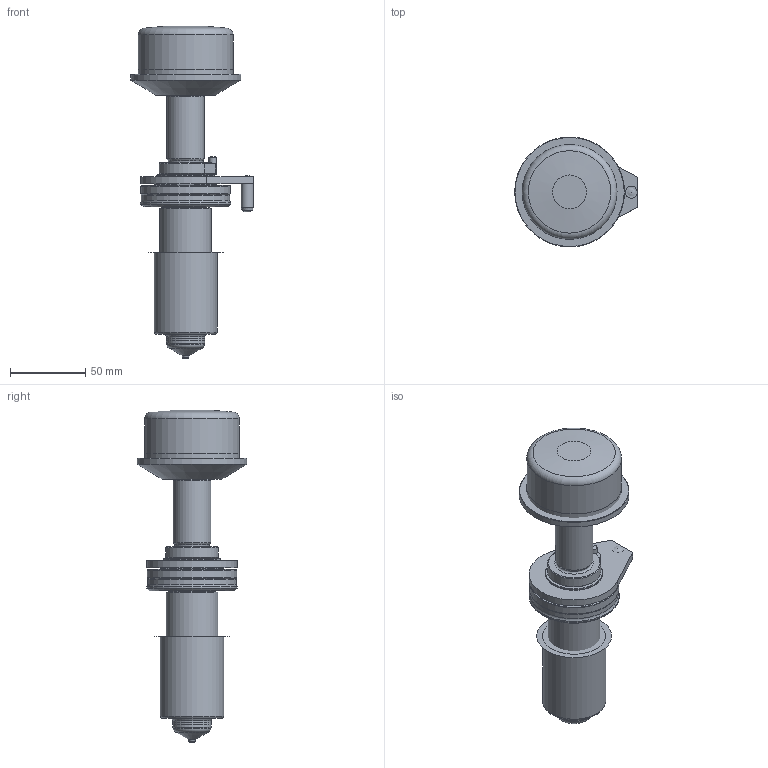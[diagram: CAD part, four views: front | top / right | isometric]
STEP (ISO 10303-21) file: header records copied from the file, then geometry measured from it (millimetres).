
FILE_DESCRIPTION(/* description */ (''),/* implementation_level */ '2;1');
FILE_NAME(/* name */ 'U1000 VG.stp',/* time_stamp */ '2021-12-24T15:33:24+08:00',/* author */ (''),/* organization */ (''),/* preprocessor_version */ 'ST-DEVELOPER v16',/* originating_system */ 'SIEMENS PLM Software NX 11.0',/* authorisation */ '');
FILE_SCHEMA (('AUTOMOTIVE_DESIGN { 1 0 10303 214 3 1 1 1 }'));
Length unit declared in the file: millimetre
Products named in the file (18): 3D_EXPORT_3D_ASSY_11312719_0_id6_x_t; 3D_EXPORT_3D_ASSY_11312719_0_id11_x_t; 3D_EXPORT_3D_ASSY_11312719_0_id16_x_t; 3D_EXPORT_3D_ASSY_11312719_0_id21_x_t; 3D_EXPORT_3D_ASSY_11312719_0_id26_x_t; 3D_EXPORT_3D_ASSY_11312719_0_id31_x_t; 3D_EXPORT_3D_ASSY_11312719_0_id36_x_t; 3D_EXPORT_3D_ASSY_11312719_0_id41_x_t; 3D_EXPORT_3D_ASSY_11312719_0_id46_x_t; 3D_EXPORT_3D_ASSY_11312719_0_id51_x_t; 3D_EXPORT_3D_ASSY_11312719_0_id56_x_t; 3D_EXPORT_3D_ASSY_11312719_0_id61_x_t; 3D_EXPORT_3D_ASSY_11312719_0_id66_x_t; 3D_EXPORT_3D_ASSY_11312719_0_id71_x_t; 3D_EXPORT_3D_ASSY_11312719_0_id76_x_t; 3D_EXPORT_3D_ASSY_11312719_0_id81_x_t; 3D_EXPORT_3D_ASSY_11312719_0_id88_x_t; 3D_EXPORT_3D_ASSY_11312719_0_x_t
Assembly tree (18 placements, depth 2):
  3D_EXPORT_3D_ASSY_11312719_0_x_t
    3D_EXPORT_3D_ASSY_11312719_0_id88_x_t
    3D_EXPORT_3D_ASSY_11312719_0_id81_x_t  x2
    3D_EXPORT_3D_ASSY_11312719_0_id76_x_t
    3D_EXPORT_3D_ASSY_11312719_0_id71_x_t
    3D_EXPORT_3D_ASSY_11312719_0_id66_x_t
    3D_EXPORT_3D_ASSY_11312719_0_id61_x_t
    3D_EXPORT_3D_ASSY_11312719_0_id56_x_t
    3D_EXPORT_3D_ASSY_11312719_0_id51_x_t
    3D_EXPORT_3D_ASSY_11312719_0_id46_x_t
    3D_EXPORT_3D_ASSY_11312719_0_id41_x_t
    3D_EXPORT_3D_ASSY_11312719_0_id36_x_t
    3D_EXPORT_3D_ASSY_11312719_0_id31_x_t
    3D_EXPORT_3D_ASSY_11312719_0_id26_x_t
    3D_EXPORT_3D_ASSY_11312719_0_id21_x_t
    3D_EXPORT_3D_ASSY_11312719_0_id16_x_t
    3D_EXPORT_3D_ASSY_11312719_0_id11_x_t
    3D_EXPORT_3D_ASSY_11312719_0_id6_x_t
Bounding box: 81.52 x 73.03 x 220.65 mm (x, y, z)
Volume: 462943.3 mm3; surface area: 96945.7 mm2
Topology: 18 solids, 18 shells, 340 faces, 823 edges, 522 vertices
Faces by surface type: cylinder 154, plane 101, torus 41, cone 41, sphere 3
Full cylindrical faces by diameter (mm): 1.7 x2, 4 x2, 5 x1, 5.88 x1, 5.985 x1, 6.027 x1, 8 x1, 9.2 x1, 16.2 x1, 17.5 x2, 17.7 x1, 18.1 x1, 19.925 x1, 21.38 x1, 23.84 x1, 24.33 x1, 24.995 x1, 25.085 x1, 25.398 x1, 25.4 x1, 25.41 x2, 25.415 x3, 25.43 x1, 27.27 x1, 31.75 x1, 32.55 x1, 34.44 x1, 38.1 x1, 42 x1, 50 x1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
Entity records: 11630 total; most frequent: CARTESIAN_POINT 2382, DIRECTION 1364, ORIENTED_EDGE 1278, EDGE_CURVE 639, AXIS2_PLACEMENT_3D 581, EDGE_LOOP 504, VERTEX_POINT 467, ADVANCED_FACE 332
